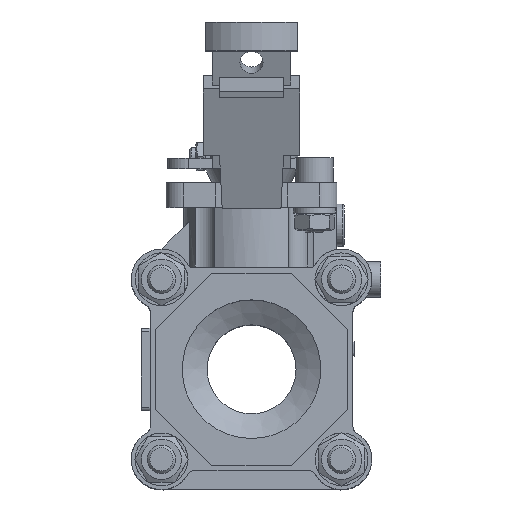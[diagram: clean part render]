
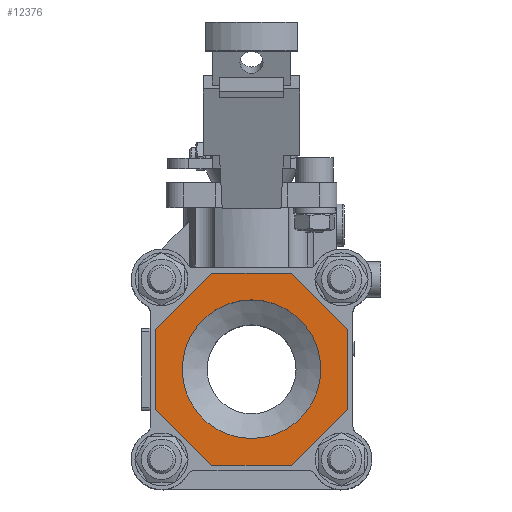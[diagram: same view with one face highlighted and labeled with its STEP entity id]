
A CAD part, top view. The second image highlights one B-rep face of the part: STEP entity #12376.
In plain terms, the highlighted planar face has unit normal (0, 0, 1).
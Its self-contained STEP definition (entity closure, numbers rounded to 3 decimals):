
#358=FACE_BOUND('',#2048,.T.);
#581=PLANE('',#13244);
#1323=FACE_OUTER_BOUND('',#2047,.T.);
#2047=EDGE_LOOP('',(#9605,#9606,#9607,#9608,#9609,#9610,#9611,#9612));
#2048=EDGE_LOOP('',(#9613,#9614));
#2742=CIRCLE('',#13234,19.476);
#2743=CIRCLE('',#13235,19.476);
#3573=LINE('',#19684,#4644);
#3575=LINE('',#19688,#4646);
#3577=LINE('',#19692,#4648);
#3579=LINE('',#19696,#4650);
#3581=LINE('',#19700,#4652);
#3583=LINE('',#19704,#4654);
#3585=LINE('',#19708,#4656);
#3587=LINE('',#19711,#4658);
#4644=VECTOR('',#15313,10.);
#4646=VECTOR('',#15317,10.);
#4648=VECTOR('',#15321,10.);
#4650=VECTOR('',#15325,10.);
#4652=VECTOR('',#15329,10.);
#4654=VECTOR('',#15333,10.);
#4656=VECTOR('',#15337,10.);
#4658=VECTOR('',#15341,10.);
#5771=VERTEX_POINT('',#19675);
#5772=VERTEX_POINT('',#19677);
#5773=VERTEX_POINT('',#19681);
#5774=VERTEX_POINT('',#19683);
#5775=VERTEX_POINT('',#19687);
#5776=VERTEX_POINT('',#19691);
#5777=VERTEX_POINT('',#19695);
#5778=VERTEX_POINT('',#19699);
#5779=VERTEX_POINT('',#19703);
#5780=VERTEX_POINT('',#19707);
#7173=EDGE_CURVE('',#5772,#5771,#2742,.T.);
#7174=EDGE_CURVE('',#5771,#5772,#2743,.T.);
#7176=EDGE_CURVE('',#5774,#5773,#3573,.T.);
#7178=EDGE_CURVE('',#5775,#5774,#3575,.T.);
#7180=EDGE_CURVE('',#5776,#5775,#3577,.T.);
#7182=EDGE_CURVE('',#5777,#5776,#3579,.T.);
#7184=EDGE_CURVE('',#5778,#5777,#3581,.T.);
#7186=EDGE_CURVE('',#5779,#5778,#3583,.T.);
#7188=EDGE_CURVE('',#5780,#5779,#3585,.T.);
#7190=EDGE_CURVE('',#5773,#5780,#3587,.T.);
#9605=ORIENTED_EDGE('',*,*,#7190,.T.);
#9606=ORIENTED_EDGE('',*,*,#7188,.T.);
#9607=ORIENTED_EDGE('',*,*,#7186,.T.);
#9608=ORIENTED_EDGE('',*,*,#7184,.T.);
#9609=ORIENTED_EDGE('',*,*,#7182,.T.);
#9610=ORIENTED_EDGE('',*,*,#7180,.T.);
#9611=ORIENTED_EDGE('',*,*,#7178,.T.);
#9612=ORIENTED_EDGE('',*,*,#7176,.T.);
#9613=ORIENTED_EDGE('',*,*,#7173,.T.);
#9614=ORIENTED_EDGE('',*,*,#7174,.T.);
#12376=ADVANCED_FACE('',(#1323,#358),#581,.T.);
#13234=AXIS2_PLACEMENT_3D('',#19678,#15306,#15307);
#13235=AXIS2_PLACEMENT_3D('',#19679,#15308,#15309);
#13244=AXIS2_PLACEMENT_3D('',#19712,#15342,#15343);
#15306=DIRECTION('center_axis',(0.,0.,
-1.));
#15307=DIRECTION('ref_axis',(-1.,0.,0.));
#15308=DIRECTION('center_axis',(0.,0.,
-1.));
#15309=DIRECTION('ref_axis',(-1.,0.,0.));
#15313=DIRECTION('',(0.,-1.,0.));
#15317=DIRECTION('',(-0.707,-0.707,0.));
#15321=DIRECTION('',(-1.,0.,0.));
#15325=DIRECTION('',(-0.707,0.707,0.));
#15329=DIRECTION('',(0.,1.,0.));
#15333=DIRECTION('',(0.707,0.707,0.));
#15337=DIRECTION('',(1.,0.,0.));
#15341=DIRECTION('',(0.707,-0.707,0.));
#15342=DIRECTION('center_axis',(0.,0.,
1.));
#15343=DIRECTION('ref_axis',(-1.,0.,0.));
#19675=CARTESIAN_POINT('',(20.163,-14.85,54.5));
#19677=CARTESIAN_POINT('',(-18.789,-14.85,54.5));
#19678=CARTESIAN_POINT('Origin',(0.687,-14.85,54.5));
#19679=CARTESIAN_POINT('Origin',(0.687,-14.85,54.5));
#19681=CARTESIAN_POINT('',(-26.313,-26.034,54.5));
#19683=CARTESIAN_POINT('',(-26.313,-3.666,54.5));
#19684=CARTESIAN_POINT('',(-26.313,-26.034,54.5));
#19687=CARTESIAN_POINT('',(-10.497,12.15,54.5));
#19688=CARTESIAN_POINT('',(-26.313,-3.666,54.5));
#19691=CARTESIAN_POINT('',(11.87,12.15,54.5));
#19692=CARTESIAN_POINT('',(-10.497,12.15,54.5));
#19695=CARTESIAN_POINT('',(27.687,-3.666,54.5));
#19696=CARTESIAN_POINT('',(11.87,12.15,54.5));
#19699=CARTESIAN_POINT('',(27.687,-26.034,54.5));
#19700=CARTESIAN_POINT('',(27.687,-3.666,54.5));
#19703=CARTESIAN_POINT('',(11.87,-41.85,54.5));
#19704=CARTESIAN_POINT('',(27.687,-26.034,54.5));
#19707=CARTESIAN_POINT('',(-10.497,-41.85,54.5));
#19708=CARTESIAN_POINT('',(11.87,-41.85,54.5));
#19711=CARTESIAN_POINT('',(-10.497,-41.85,54.5));
#19712=CARTESIAN_POINT('Origin',(0.687,-14.85,54.5));
